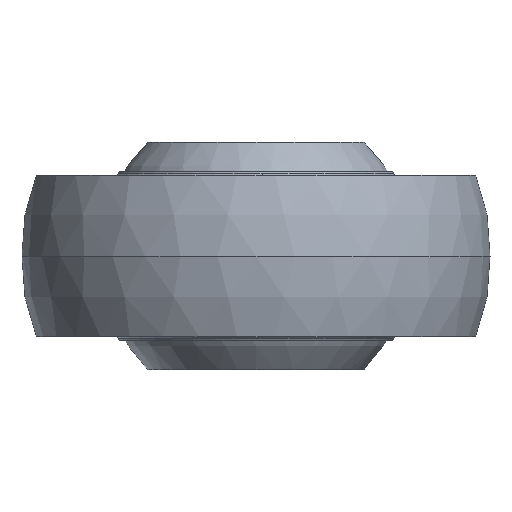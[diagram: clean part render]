
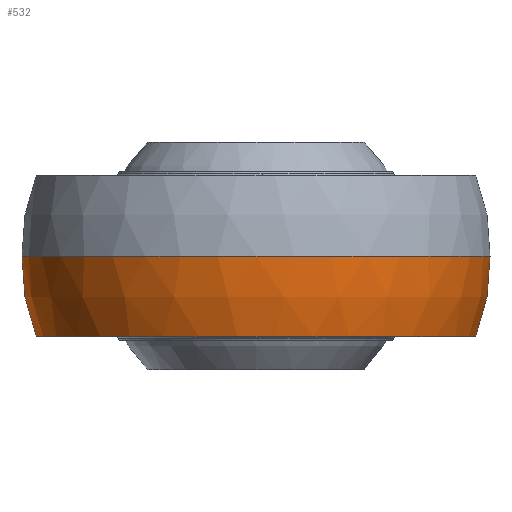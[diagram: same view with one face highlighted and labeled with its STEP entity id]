
A CAD part, left-side view. The second image highlights one B-rep face of the part: STEP entity #532.
In plain terms, the highlighted spherical face has radius 32 mm.
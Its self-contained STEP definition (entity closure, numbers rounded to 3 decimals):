
#498 = VERTEX_POINT ( 'NONE', #1985 ) ;
#516 = EDGE_CURVE ( 'NONE', #518, #498, #1991, .T. ) ;
#517 = ORIENTED_EDGE ( 'NONE', *, *, #516, .T. ) ;
#518 = VERTEX_POINT ( 'NONE', #2049 ) ;
#519 = ORIENTED_EDGE ( 'NONE', *, *, #526, .T. ) ;
#520 = ORIENTED_EDGE ( 'NONE', *, *, #524, .T. ) ;
#521 = VERTEX_POINT ( 'NONE', #2048 ) ;
#522 = VERTEX_POINT ( 'NONE', #2047 ) ;
#523 = EDGE_LOOP ( 'NONE', ( #519, #520, #527, #517, #543 ) ) ;
#524 = EDGE_CURVE ( 'NONE', #521, #522, #2046, .T. ) ;
#525 = VERTEX_POINT ( 'NONE', #2041 ) ;
#526 = EDGE_CURVE ( 'NONE', #525, #521, #2040, .T. ) ;
#527 = ORIENTED_EDGE ( 'NONE', *, *, #528, .F. ) ;
#528 = EDGE_CURVE ( 'NONE', #518, #522, #2035, .T. ) ;
#532 = ADVANCED_FACE ( 'NONE', ( #2029 ), #2028, .T. ) ;
#543 = ORIENTED_EDGE ( 'NONE', *, *, #546, .T. ) ;
#546 = EDGE_CURVE ( 'NONE', #498, #525, #2175, .T. ) ;
#1985 = CARTESIAN_POINT ( 'NONE',  ( 17.201, 24.64, -11. ) ) ;
#1990 = AXIS2_PLACEMENT_3D ( 'NONE', #2052, #2051, #2050 ) ;
#1991 = CIRCLE ( 'NONE', #1990, 26.984 ) ;
#2024 = DIRECTION ( 'NONE',  ( 0., 1., 0. ) ) ;
#2025 = DIRECTION ( 'NONE',  ( 0., 0., -1. ) ) ;
#2026 = AXIS2_PLACEMENT_3D ( 'NONE', #2027, #2025, #2024 ) ;
#2027 = CARTESIAN_POINT ( 'NONE',  ( 0., 0., 0. ) ) ;
#2028 = SPHERICAL_SURFACE ( 'NONE', #2026, 32. ) ;
#2029 = FACE_OUTER_BOUND ( 'NONE', #523, .T. ) ;
#2030 = DIRECTION ( 'NONE',  ( 1., 0., 0. ) ) ;
#2031 = DIRECTION ( 'NONE',  ( 0., 0., 1. ) ) ;
#2032 = CARTESIAN_POINT ( 'NONE',  ( 0., 0., 0. ) ) ;
#2034 = AXIS2_PLACEMENT_3D ( 'NONE', #2032, #2031, #2030 ) ;
#2035 = CIRCLE ( 'NONE', #2034, 32. ) ;
#2036 = DIRECTION ( 'NONE',  ( 0., 0., 1. ) ) ;
#2037 = DIRECTION ( 'NONE',  ( -1., 0., 0. ) ) ;
#2038 = CARTESIAN_POINT ( 'NONE',  ( 17.201, 0., 0. ) ) ;
#2039 = AXIS2_PLACEMENT_3D ( 'NONE', #2038, #2037, #2036 ) ;
#2040 = CIRCLE ( 'NONE', #2039, 26.984 ) ;
#2041 = CARTESIAN_POINT ( 'NONE',  ( 17.201, -24.64, -11. ) ) ;
#2042 = DIRECTION ( 'NONE',  ( 0., 1., 0. ) ) ;
#2043 = DIRECTION ( 'NONE',  ( 0., 0., -1. ) ) ;
#2044 = CARTESIAN_POINT ( 'NONE',  ( 0., 0., 0. ) ) ;
#2045 = AXIS2_PLACEMENT_3D ( 'NONE', #2044, #2043, #2042 ) ;
#2046 = CIRCLE ( 'NONE', #2045, 32. ) ;
#2047 = CARTESIAN_POINT ( 'NONE',  ( -32., 0., 0. ) ) ;
#2048 = CARTESIAN_POINT ( 'NONE',  ( 17.201, -26.984, 0. ) ) ;
#2049 = CARTESIAN_POINT ( 'NONE',  ( 17.201, 26.984, 0. ) ) ;
#2050 = DIRECTION ( 'NONE',  ( 0., 0., 1. ) ) ;
#2051 = DIRECTION ( 'NONE',  ( -1., 0., 0. ) ) ;
#2052 = CARTESIAN_POINT ( 'NONE',  ( 17.201, 0., 0. ) ) ;
#2171 = DIRECTION ( 'NONE',  ( 1., 0., 0. ) ) ;
#2172 = DIRECTION ( 'NONE',  ( 0., 0., 1. ) ) ;
#2173 = CARTESIAN_POINT ( 'NONE',  ( 0., 0., -11. ) ) ;
#2174 = AXIS2_PLACEMENT_3D ( 'NONE', #2173, #2172, #2171 ) ;
#2175 = CIRCLE ( 'NONE', #2174, 30.05 ) ;
